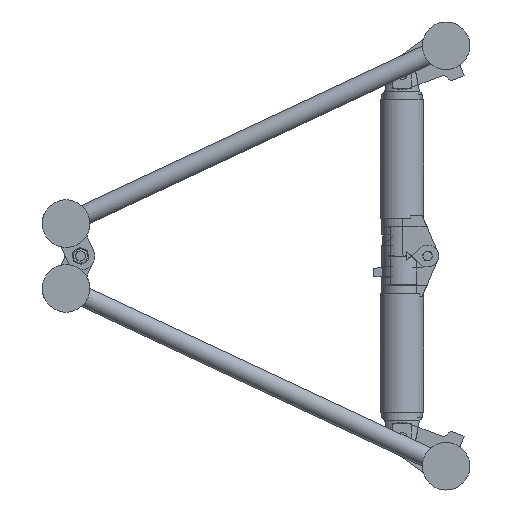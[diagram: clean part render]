
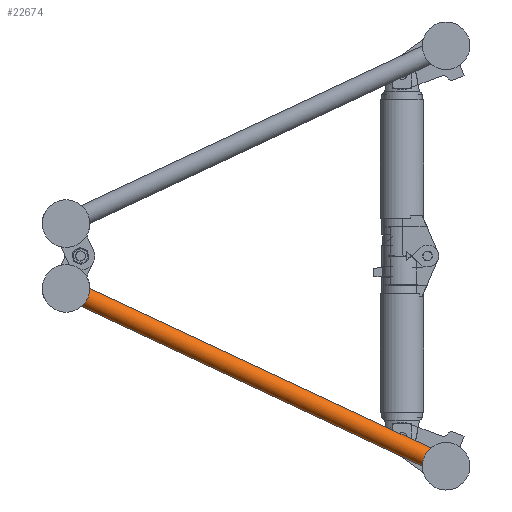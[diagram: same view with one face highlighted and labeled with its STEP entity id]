
A CAD part, left-side view. The second image highlights one B-rep face of the part: STEP entity #22674.
In plain terms, the highlighted cylindrical face has radius 12.5 mm (diameter 25 mm), a full revolution.
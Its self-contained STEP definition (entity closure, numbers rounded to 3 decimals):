
#340=B_SPLINE_CURVE_WITH_KNOTS('',3,(#35803,#35804,#35805,#35806,#35807,
#35808),.UNSPECIFIED.,.F.,.F.,(4,2,4),(1.801,1.922,
2.043),.UNSPECIFIED.);
#341=B_SPLINE_CURVE_WITH_KNOTS('',3,(#35812,#35813,#35814,#35815,#35816,
#35817),.UNSPECIFIED.,.F.,.F.,(4,2,4),(5.645,5.766,
5.887),.UNSPECIFIED.);
#346=B_SPLINE_CURVE_WITH_KNOTS('',3,(#35872,#35873,#35874,#35875,#35876,
#35877),.UNSPECIFIED.,.F.,.F.,(4,2,4),(5.645,5.766,
5.887),.UNSPECIFIED.);
#347=B_SPLINE_CURVE_WITH_KNOTS('',3,(#35881,#35882,#35883,#35884,#35885,
#35886),.UNSPECIFIED.,.F.,.F.,(4,2,4),(1.801,1.922,
2.043),.UNSPECIFIED.);
#869=FACE_BOUND('',#4508,.T.);
#1601=CIRCLE('',#24477,12.5);
#1602=CIRCLE('',#24479,12.5);
#1603=CIRCLE('',#24480,12.5);
#1604=CIRCLE('',#24481,12.5);
#2159=CYLINDRICAL_SURFACE('',#24478,12.5);
#2956=FACE_OUTER_BOUND('',#4507,.T.);
#4507=EDGE_LOOP('',(#16872,#16873,#16874,#16875));
#4508=EDGE_LOOP('',(#16876,#16877,#16878,#16879));
#9939=VERTEX_POINT('',#35801);
#9940=VERTEX_POINT('',#35802);
#9941=VERTEX_POINT('',#35809);
#9942=VERTEX_POINT('',#35811);
#9955=VERTEX_POINT('',#35870);
#9956=VERTEX_POINT('',#35871);
#9957=VERTEX_POINT('',#35878);
#9958=VERTEX_POINT('',#35880);
#12508=EDGE_CURVE('',#9939,#9940,#340,.T.);
#12510=EDGE_CURVE('',#9942,#9941,#341,.T.);
#12524=EDGE_CURVE('',#9941,#9939,#1601,.T.);
#12525=EDGE_CURVE('',#9955,#9956,#346,.T.);
#12526=EDGE_CURVE('',#9956,#9957,#1602,.T.);
#12527=EDGE_CURVE('',#9957,#9958,#347,.T.);
#12528=EDGE_CURVE('',#9958,#9955,#1603,.T.);
#12529=EDGE_CURVE('',#9940,#9942,#1604,.T.);
#16872=ORIENTED_EDGE('',*,*,#12525,.T.);
#16873=ORIENTED_EDGE('',*,*,#12526,.T.);
#16874=ORIENTED_EDGE('',*,*,#12527,.T.);
#16875=ORIENTED_EDGE('',*,*,#12528,.T.);
#16876=ORIENTED_EDGE('',*,*,#12510,.T.);
#16877=ORIENTED_EDGE('',*,*,#12524,.T.);
#16878=ORIENTED_EDGE('',*,*,#12508,.T.);
#16879=ORIENTED_EDGE('',*,*,#12529,.T.);
#22674=ADVANCED_FACE('',(#2956,#869),#2159,.T.);
#24477=AXIS2_PLACEMENT_3D('',#35868,#28610,#28611);
#24478=AXIS2_PLACEMENT_3D('',#35869,#28612,#28613);
#24479=AXIS2_PLACEMENT_3D('',#35879,#28614,#28615);
#24480=AXIS2_PLACEMENT_3D('',#35887,#28616,#28617);
#24481=AXIS2_PLACEMENT_3D('',#35888,#28618,#28619);
#28610=DIRECTION('center_axis',(0.,0.906,
0.424));
#28611=DIRECTION('ref_axis',(-1.,0.,0.));
#28612=DIRECTION('center_axis',(0.,0.906,
0.424));
#28613=DIRECTION('ref_axis',(-1.,0.,0.));
#28614=DIRECTION('center_axis',(0.,-0.906,
-0.424));
#28615=DIRECTION('ref_axis',(-1.,0.,0.));
#28616=DIRECTION('center_axis',(0.,-0.906,
-0.424));
#28617=DIRECTION('ref_axis',(-1.,0.,0.));
#28618=DIRECTION('center_axis',(0.,0.906,
0.424));
#28619=DIRECTION('ref_axis',(-1.,0.,0.));
#35801=CARTESIAN_POINT('',(104.94,22.096,-248.305));
#35802=CARTESIAN_POINT('',(104.94,23.134,-250.523));
#35803=CARTESIAN_POINT('Ctrl Pts',(104.94,22.096,-248.305));
#35804=CARTESIAN_POINT('Ctrl Pts',(104.98,22.289,-248.669));
#35805=CARTESIAN_POINT('Ctrl Pts',(105.,22.471,-249.036));
#35806=CARTESIAN_POINT('Ctrl Pts',(105.,22.813,-249.767));
#35807=CARTESIAN_POINT('Ctrl Pts',(104.98,22.978,-250.142));
#35808=CARTESIAN_POINT('Ctrl Pts',(104.94,23.134,-250.523));
#35809=CARTESIAN_POINT('',(80.06,22.096,-248.305));
#35811=CARTESIAN_POINT('',(80.06,23.134,-250.523));
#35812=CARTESIAN_POINT('Ctrl Pts',(80.06,23.134,-250.523));
#35813=CARTESIAN_POINT('Ctrl Pts',(80.02,22.978,-250.142));
#35814=CARTESIAN_POINT('Ctrl Pts',(80.,22.813,-249.767));
#35815=CARTESIAN_POINT('Ctrl Pts',(80.,22.471,-249.036));
#35816=CARTESIAN_POINT('Ctrl Pts',(80.02,22.289,-248.669));
#35817=CARTESIAN_POINT('Ctrl Pts',(80.06,22.096,-248.305));
#35868=CARTESIAN_POINT('Origin',(92.5,22.615,-249.414));
#35869=CARTESIAN_POINT('Origin',(92.5,234.999,-150.));
#35870=CARTESIAN_POINT('',(80.06,446.865,-49.477));
#35871=CARTESIAN_POINT('',(80.06,447.903,-51.695));
#35872=CARTESIAN_POINT('Ctrl Pts',(80.06,446.865,-49.477));
#35873=CARTESIAN_POINT('Ctrl Pts',(80.02,447.021,-49.858));
#35874=CARTESIAN_POINT('Ctrl Pts',(80.,447.185,-50.233));
#35875=CARTESIAN_POINT('Ctrl Pts',(80.,447.528,-50.964));
#35876=CARTESIAN_POINT('Ctrl Pts',(80.02,447.71,-51.331));
#35877=CARTESIAN_POINT('Ctrl Pts',(80.06,447.903,-51.695));
#35878=CARTESIAN_POINT('',(104.94,447.903,-51.695));
#35879=CARTESIAN_POINT('Origin',(92.5,447.384,-50.586));
#35880=CARTESIAN_POINT('',(104.94,446.865,-49.477));
#35881=CARTESIAN_POINT('Ctrl Pts',(104.94,447.903,-51.695));
#35882=CARTESIAN_POINT('Ctrl Pts',(104.98,447.71,-51.331));
#35883=CARTESIAN_POINT('Ctrl Pts',(105.,447.528,-50.964));
#35884=CARTESIAN_POINT('Ctrl Pts',(105.,447.185,-50.233));
#35885=CARTESIAN_POINT('Ctrl Pts',(104.98,447.021,-49.858));
#35886=CARTESIAN_POINT('Ctrl Pts',(104.94,446.865,-49.477));
#35887=CARTESIAN_POINT('Origin',(92.5,447.384,-50.586));
#35888=CARTESIAN_POINT('Origin',(92.5,22.615,-249.414));
